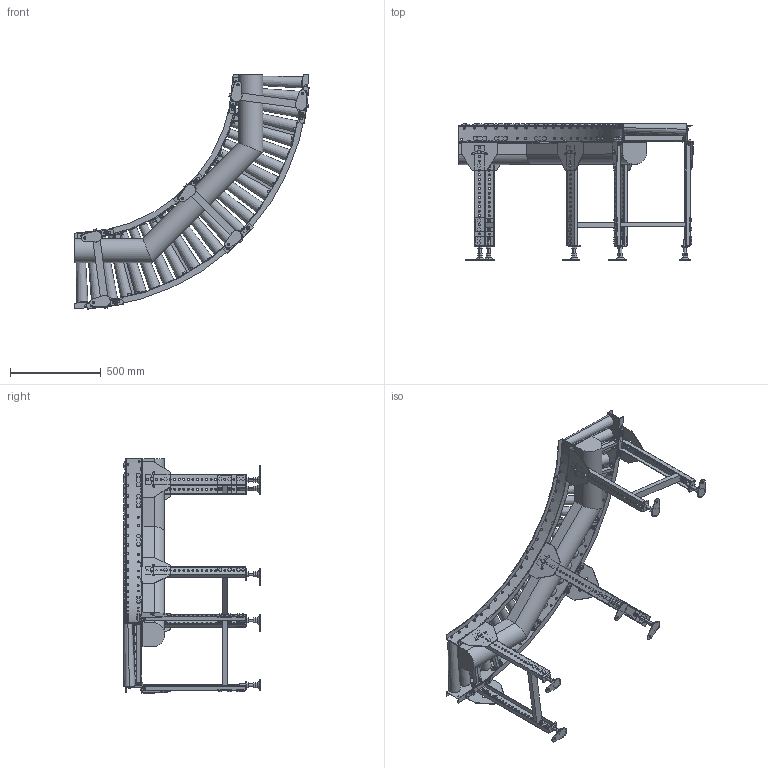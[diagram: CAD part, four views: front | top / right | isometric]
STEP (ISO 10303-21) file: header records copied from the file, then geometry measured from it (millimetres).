
FILE_DESCRIPTION (( 'STEP AP214' ), '1' );
FILE_NAME ('MCD50C9-90-355-75.STEP', '2022-08-01T07:02:41', ( '' ), ( '' ), 'SwSTEP 2.0', 'SolidWorks 2017', '' );
FILE_SCHEMA (( 'AUTOMOTIVE_DESIGN' ));
Length unit declared in the file: millimetre
Products named in the file (1): MCD50C9-90-355-75
Bounding box: 1287.72 x 750 x 1287.72 mm (x, y, z)
Volume: 47616798.2 mm3; surface area: 4902470.8 mm2
Topology: 28 solids, 58 shells, 3903 faces, 9300 edges, 5866 vertices
Faces by surface type: plane 2752, cylinder 1091, cone 60
Entity records: 168476 total; most frequent: CARTESIAN_POINT 32670, DIRECTION 19596, ORIENTED_EDGE 18600, EDGE_CURVE 9300, AXIS2_PLACEMENT_3D 6826, LINE 5944, VECTOR 5944, VERTEX_POINT 5866
